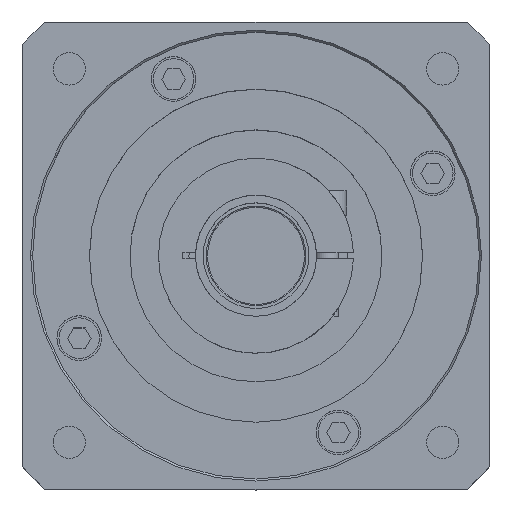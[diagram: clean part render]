
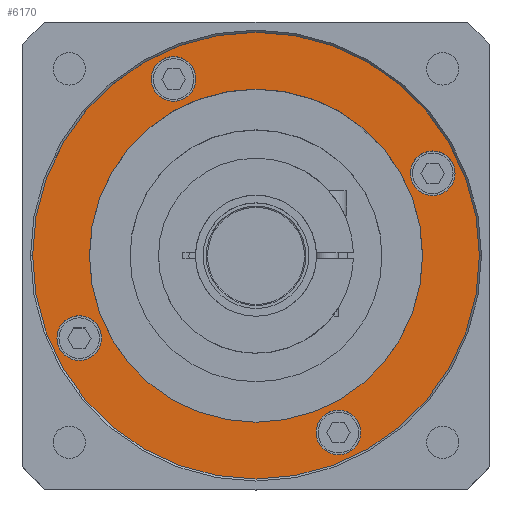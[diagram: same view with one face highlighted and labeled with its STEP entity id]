
A CAD part, top view. The second image highlights one B-rep face of the part: STEP entity #6170.
In plain terms, the highlighted planar face has unit normal (0, 0, 1) as drawn and (0, 0, -1) by its records, which use the part's own axes.
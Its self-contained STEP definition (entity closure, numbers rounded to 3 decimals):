
#5369=CARTESIAN_POINT('',(0.,0.,10.));
#5370=DIRECTION('',(0.,0.,1.));
#5371=DIRECTION('',(1.,0.,0.));
#5372=AXIS2_PLACEMENT_3D('',#5369,#5370,#5371);
#5374=CARTESIAN_POINT('',(0.,0.,10.));
#5375=DIRECTION('',(0.,0.,1.));
#5376=DIRECTION('',(-1.,0.,0.));
#5377=AXIS2_PLACEMENT_3D('',#5374,#5375,#5376);
#5379=CARTESIAN_POINT('',(0.,0.,10.));
#5380=DIRECTION('',(0.,0.,-1.));
#5381=DIRECTION('',(-1.,0.,0.));
#5382=AXIS2_PLACEMENT_3D('',#5379,#5380,#5381);
#5384=CARTESIAN_POINT('',(0.,0.,10.));
#5385=DIRECTION('',(0.,0.,-1.));
#5386=DIRECTION('',(1.,0.,0.));
#5387=AXIS2_PLACEMENT_3D('',#5384,#5385,#5386);
#5389=CARTESIAN_POINT('',(-43.503,20.286,10.));
#5390=DIRECTION('',(0.,0.,1.));
#5391=DIRECTION('',(1.,0.,0.));
#5392=AXIS2_PLACEMENT_3D('',#5389,#5390,#5391);
#5394=CARTESIAN_POINT('',(-43.503,20.286,10.));
#5395=DIRECTION('',(0.,0.,1.));
#5396=DIRECTION('',(-1.,0.,0.));
#5397=AXIS2_PLACEMENT_3D('',#5394,#5395,#5396);
#5399=CARTESIAN_POINT('',(20.286,43.503,10.));
#5400=DIRECTION('',(0.,0.,1.));
#5401=DIRECTION('',(1.,0.,0.));
#5402=AXIS2_PLACEMENT_3D('',#5399,#5400,#5401);
#5404=CARTESIAN_POINT('',(20.286,43.503,10.));
#5405=DIRECTION('',(0.,0.,1.));
#5406=DIRECTION('',(-1.,0.,0.));
#5407=AXIS2_PLACEMENT_3D('',#5404,#5405,#5406);
#5409=CARTESIAN_POINT('',(43.503,-20.286,10.));
#5410=DIRECTION('',(0.,0.,1.));
#5411=DIRECTION('',(1.,0.,0.));
#5412=AXIS2_PLACEMENT_3D('',#5409,#5410,#5411);
#5414=CARTESIAN_POINT('',(43.503,-20.286,10.));
#5415=DIRECTION('',(0.,0.,1.));
#5416=DIRECTION('',(-1.,0.,0.));
#5417=AXIS2_PLACEMENT_3D('',#5414,#5415,#5416);
#5419=CARTESIAN_POINT('',(-20.286,-43.503,10.));
#5420=DIRECTION('',(0.,0.,1.));
#5421=DIRECTION('',(1.,0.,0.));
#5422=AXIS2_PLACEMENT_3D('',#5419,#5420,#5421);
#5424=CARTESIAN_POINT('',(-20.286,-43.503,10.));
#5425=DIRECTION('',(0.,0.,1.));
#5426=DIRECTION('',(-1.,0.,0.));
#5427=AXIS2_PLACEMENT_3D('',#5424,#5425,#5426);
#5735=CARTESIAN_POINT('',(-49.003,20.286,10.));
#5736=VERTEX_POINT('',#5735);
#5737=CARTESIAN_POINT('',(-38.003,20.286,10.));
#5738=VERTEX_POINT('',#5737);
#5747=CARTESIAN_POINT('',(25.786,43.503,10.));
#5748=VERTEX_POINT('',#5747);
#5749=CARTESIAN_POINT('',(14.786,43.503,10.));
#5750=VERTEX_POINT('',#5749);
#5759=CARTESIAN_POINT('',(49.003,-20.286,10.));
#5760=VERTEX_POINT('',#5759);
#5761=CARTESIAN_POINT('',(38.003,-20.286,10.));
#5762=VERTEX_POINT('',#5761);
#5771=CARTESIAN_POINT('',(-14.786,-43.503,10.));
#5772=VERTEX_POINT('',#5771);
#5773=CARTESIAN_POINT('',(-25.786,-43.503,10.));
#5774=VERTEX_POINT('',#5773);
#5813=CARTESIAN_POINT('',(55.,0.,10.));
#5814=CARTESIAN_POINT('',(-55.,0.,10.));
#5815=VERTEX_POINT('',#5813);
#5816=VERTEX_POINT('',#5814);
#5817=CARTESIAN_POINT('',(-41.,0.,10.));
#5818=CARTESIAN_POINT('',(41.,0.,10.));
#5819=VERTEX_POINT('',#5817);
#5820=VERTEX_POINT('',#5818);
#6131=CARTESIAN_POINT('',(0.,0.,10.));
#6132=DIRECTION('',(0.,0.,1.));
#6133=DIRECTION('',(1.,0.,0.));
#6134=AXIS2_PLACEMENT_3D('',#6131,#6132,#6133);
#6135=PLANE('',#6134);
#6137=ORIENTED_EDGE('',*,*,#6136,.T.);
#6139=ORIENTED_EDGE('',*,*,#6138,.T.);
#6140=EDGE_LOOP('',(#6137,#6139));
#6141=FACE_OUTER_BOUND('',#6140,.F.);
#6142=ORIENTED_EDGE('',*,*,#6080,.T.);
#6143=ORIENTED_EDGE('',*,*,#6125,.T.);
#6144=EDGE_LOOP('',(#6142,#6143));
#6145=FACE_BOUND('',#6144,.F.);
#6147=ORIENTED_EDGE('',*,*,#6146,.F.);
#6149=ORIENTED_EDGE('',*,*,#6148,.F.);
#6150=EDGE_LOOP('',(#6147,#6149));
#6151=FACE_BOUND('',#6150,.F.);
#6153=ORIENTED_EDGE('',*,*,#6152,.F.);
#6155=ORIENTED_EDGE('',*,*,#6154,.F.);
#6156=EDGE_LOOP('',(#6153,#6155));
#6157=FACE_BOUND('',#6156,.F.);
#6159=ORIENTED_EDGE('',*,*,#6158,.F.);
#6161=ORIENTED_EDGE('',*,*,#6160,.F.);
#6162=EDGE_LOOP('',(#6159,#6161));
#6163=FACE_BOUND('',#6162,.F.);
#6165=ORIENTED_EDGE('',*,*,#6164,.F.);
#6167=ORIENTED_EDGE('',*,*,#6166,.F.);
#6168=EDGE_LOOP('',(#6165,#6167));
#6169=FACE_BOUND('',#6168,.F.);
#6170=ADVANCED_FACE('',(#6141,#6145,#6151,#6157,#6163,#6169),#6135,.F.);
#5373=CIRCLE('',#5372,55.);
#5378=CIRCLE('',#5377,55.);
#5383=CIRCLE('',#5382,41.);
#5388=CIRCLE('',#5387,41.);
#5393=CIRCLE('',#5392,5.5);
#5398=CIRCLE('',#5397,5.5);
#5403=CIRCLE('',#5402,5.5);
#5408=CIRCLE('',#5407,5.5);
#5413=CIRCLE('',#5412,5.5);
#5418=CIRCLE('',#5417,5.5);
#5423=CIRCLE('',#5422,5.5);
#5428=CIRCLE('',#5427,5.5);
#6080=EDGE_CURVE('',#5819,#5820,#5383,.T.);
#6125=EDGE_CURVE('',#5820,#5819,#5388,.T.);
#6136=EDGE_CURVE('',#5815,#5816,#5373,.T.);
#6138=EDGE_CURVE('',#5816,#5815,#5378,.T.);
#6146=EDGE_CURVE('',#5738,#5736,#5393,.T.);
#6148=EDGE_CURVE('',#5736,#5738,#5398,.T.);
#6152=EDGE_CURVE('',#5748,#5750,#5403,.T.);
#6154=EDGE_CURVE('',#5750,#5748,#5408,.T.);
#6158=EDGE_CURVE('',#5760,#5762,#5413,.T.);
#6160=EDGE_CURVE('',#5762,#5760,#5418,.T.);
#6164=EDGE_CURVE('',#5772,#5774,#5423,.T.);
#6166=EDGE_CURVE('',#5774,#5772,#5428,.T.);
